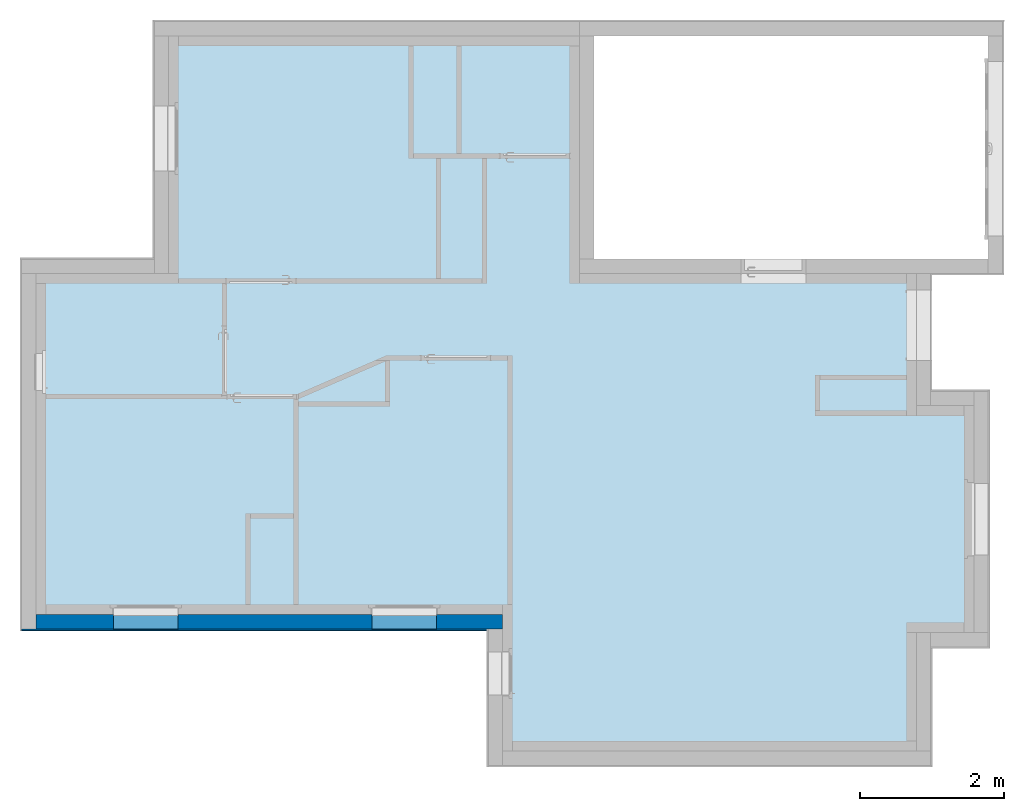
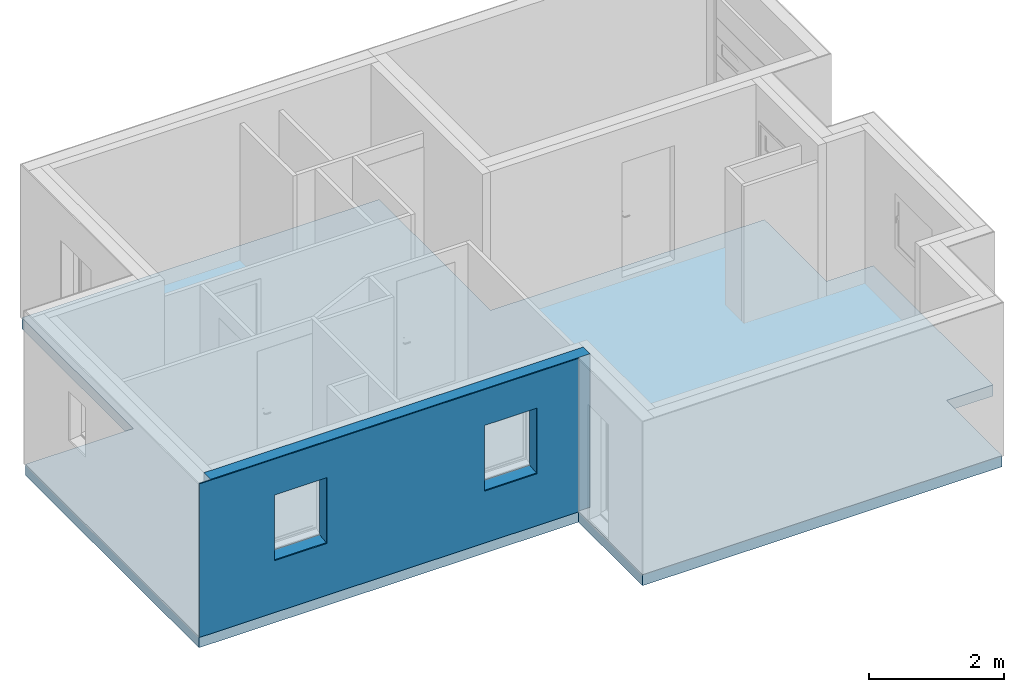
# One storey, part 1 of 11: 2 walls, 1 slab, 4 openings.
"""IFC2X3 building model written with IfcOpenShell, lengths in centimetres."""

from ifc_helpers import new_model, entity, si_unit, converted_unit, derived_unit, direction, frame, frame_2d, origin, place, context, subcontext, project, spatial, polyline, rectangle, outline, extrude, faceted_brep, material, layer, layer_set, layer_usage, type_object, element, save


model = new_model("IFC2X3")

# Units and contexts
model_context = context("Model", 3, precision=0.001, world=origin(), true_north=direction((6.123031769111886e-17, 1.0)))
body_context = subcontext(model_context, "Body", "Model", "MODEL_VIEW")
ifc_project = project(units=[si_unit("LENGTHUNIT", "METRE", prefix="CENTI"), si_unit("AREAUNIT", "SQUARE_METRE"), si_unit("VOLUMEUNIT", "CUBIC_METRE"), converted_unit("PLANEANGLEUNIT", "DEGREE", entity("IfcRatioMeasure", 0.017453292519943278), si_unit("PLANEANGLEUNIT", "RADIAN"), dimensions=[0, 0, 0, 0, 0, 0, 0]), si_unit("MASSUNIT", "GRAM", prefix="KILO"), derived_unit("MASSDENSITYUNIT", [(si_unit("MASSUNIT", "GRAM", prefix="KILO"), 1), (si_unit("LENGTHUNIT", "METRE"), -3)]), derived_unit("MOMENTOFINERTIAUNIT", [(si_unit("LENGTHUNIT", "METRE"), 4)]), si_unit("TIMEUNIT", "SECOND"), si_unit("FREQUENCYUNIT", "HERTZ"), si_unit("THERMODYNAMICTEMPERATUREUNIT", "DEGREE_CELSIUS"), derived_unit("THERMALTRANSMITTANCEUNIT", [(si_unit("MASSUNIT", "GRAM", prefix="KILO"), 1), (si_unit("THERMODYNAMICTEMPERATUREUNIT", "KELVIN"), -1), (si_unit("TIMEUNIT", "SECOND"), -3)]), derived_unit("VOLUMETRICFLOWRATEUNIT", [(si_unit("LENGTHUNIT", "METRE"), 3), (si_unit("TIMEUNIT", "SECOND"), -1)]), derived_unit("MASSFLOWRATEUNIT", [(si_unit("MASSUNIT", "GRAM", prefix="KILO"), 1), (si_unit("TIMEUNIT", "SECOND"), -1)]), derived_unit("ROTATIONALFREQUENCYUNIT", [(si_unit("TIMEUNIT", "SECOND"), -1)]), si_unit("ELECTRICCURRENTUNIT", "AMPERE"), si_unit("ELECTRICVOLTAGEUNIT", "VOLT"), si_unit("POWERUNIT", "WATT"), si_unit("FORCEUNIT", "NEWTON", prefix="KILO"), si_unit("ILLUMINANCEUNIT", "LUX"), si_unit("LUMINOUSFLUXUNIT", "LUMEN"), si_unit("LUMINOUSINTENSITYUNIT", "CANDELA"), derived_unit("USERDEFINED", [(si_unit("MASSUNIT", "GRAM", prefix="KILO"), -1), (si_unit("LENGTHUNIT", "METRE"), -2), (si_unit("TIMEUNIT", "SECOND"), 3), (si_unit("LUMINOUSFLUXUNIT", "LUMEN"), 1)]), derived_unit("SOUNDPOWERUNIT", [(si_unit("MASSUNIT", "GRAM", prefix="KILO"), 1), (si_unit("LENGTHUNIT", "METRE"), 2), (si_unit("TIMEUNIT", "SECOND"), -3)]), derived_unit("SOUNDPRESSUREUNIT", [(si_unit("MASSUNIT", "GRAM", prefix="KILO"), 1), (si_unit("LENGTHUNIT", "METRE"), -1), (si_unit("TIMEUNIT", "SECOND"), -2)]), derived_unit("LINEARVELOCITYUNIT", [(si_unit("LENGTHUNIT", "METRE"), 1), (si_unit("TIMEUNIT", "SECOND"), -1)]), si_unit("PRESSUREUNIT", "PASCAL"), derived_unit("USERDEFINED", [(si_unit("LENGTHUNIT", "METRE"), -2), (si_unit("MASSUNIT", "GRAM", prefix="KILO"), 1), (si_unit("TIMEUNIT", "SECOND"), -2)]), derived_unit("LINEARFORCEUNIT", [(si_unit("MASSUNIT", "GRAM", prefix="KILO"), 1), (si_unit("LENGTHUNIT", "METRE"), 1), (si_unit("TIMEUNIT", "SECOND"), -2), (si_unit("LENGTHUNIT", "METRE"), -1)]), derived_unit("PLANARFORCEUNIT", [(si_unit("MASSUNIT", "GRAM", prefix="KILO"), 1), (si_unit("LENGTHUNIT", "METRE"), 1), (si_unit("TIMEUNIT", "SECOND"), -2), (si_unit("LENGTHUNIT", "METRE"), -2)])], contexts=[model_context])

# Site, building, storey
site_placement = place(None, origin())
site = spatial("IfcSite", under=ifc_project, at=site_placement, Name="Default", CompositionType="ELEMENT")
building_placement = place(site_placement, origin())
building = spatial("IfcBuilding", under=site, at=building_placement, CompositionType="ELEMENT")
storey_placement = place(building_placement, frame((0.0, 0.0, -8.0)))
storey = spatial("IfcBuildingStorey", under=building, at=storey_placement, Name="-0.08_Dessus plancher", CompositionType="ELEMENT", Elevation=-8.000000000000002)

# Slab
ifc_material_1 = material(Name="Maçonnerie - Béton")
ifc_layer_1 = layer(ifc_material_1, 20.0)
ifc_layer_set_1 = layer_set([ifc_layer_1], Name="Sol:Dalle en béton - 200 mm")
ifc_layer_usage_1 = layer_usage(ifc_layer_set_1, "AXIS3", "POSITIVE", 0.0)
slab_type = type_object("IfcSlabType", Name="Sol:Dalle en béton - 200 mm", PredefinedType="FLOOR", material=ifc_layer_set_1)
slab_placement = place(storey_placement, origin())
element("IfcSlab", 1, at=slab_placement, inside=storey, type_object=slab_type, material=ifc_layer_usage_1, Name="Sol:Dalle en béton - 200 mm", ObjectType="Sol:Dalle en béton - 200 mm", PredefinedType="FLOOR", context=body_context, shape_type="SweptSolid", body=[
    extrude(outline(polyline([(-284.5714285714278, -787.1428571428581), (230.42857142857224, -787.1428571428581), (230.4285714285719, -602.1428571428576), (561.4285714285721, -602.1428571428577), (561.4285714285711, 9.857142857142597), (230.42857142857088, 9.85714285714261), (230.42857142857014, 478.85714285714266), (46.42857142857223, 478.8571428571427), (46.428571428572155, 558.8571428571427), (-309.57142857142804, 558.8571428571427), (-309.57142857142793, 478.8571428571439), (-474.5714285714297, 478.8571428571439), (-474.5714285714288, -137.14285714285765), (-284.5714285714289, -137.14285714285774), (-284.5714285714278, -787.1428571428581)])), frame((-844.6825059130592, 370.17572465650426, 0.0), z_axis=(0.0, 0.0, -1.0), x_axis=(0.0, 1.0, 0.0)), (0.0, 0.0, 1.0), 20.0),
])

# Wall, openings
ifc_layer_2 = layer(ifc_material_1, 20.0)
ifc_layer_set_2 = layer_set([ifc_layer_2], Name="Mur de base:Mur 20")
ifc_layer_usage_2 = layer_usage(ifc_layer_set_2, "AXIS2", "POSITIVE", -10.0)
wall_type_1 = type_object("IfcWallType", Name="Mur de base:Mur 20", PredefinedType="STANDARD", material=ifc_layer_set_2)
wall_1_placement = place(storey_placement, frame((-1611.825363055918, 95.60429608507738, 0.0)))
wall_1 = element("IfcWallStandardCase", 2, at=wall_1_placement, inside=storey, type_object=wall_type_1, material=ifc_layer_usage_2, Name="Mur de base:Mur 20", ObjectType="Mur de base:Mur 20", context=body_context, shape_type="SweptSolid", body=[
    extrude(rectangle(XDim=650.0, YDim=19.999999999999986, at=frame_2d((325.0, 5.329070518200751e-15), x_axis=(-1.0, 0.0))), origin(), (0.0, 0.0, 1.0), 278.00000000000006),
])
opening_1_placement = place(wall_1_placement, frame((103.0, -33.0, 91.77030941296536)))
element("IfcOpeningElement", 3, at=opening_1_placement, cuts=wall_1, Name="Mur de base:Mur 20", ObjectType="Opening", context=body_context, shape_type="Brep", body=[
    faceted_brep([(95.0, 45.0, 6.229690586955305), (95.0, 43.0, 6.229690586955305), (95.0, 43.0, 121.22969058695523), (95.0, 0.0, 121.22969058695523), (95.0, 0.0, 0.0), (95.0, 45.0, 4.729690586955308), (5.0, 100.0, 6.229690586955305), (5.0, 57.0, 6.229690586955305), (5.0, 57.0, 121.22969058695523), (5.0, 100.0, 121.22969058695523), (95.0, 100.0, 6.229690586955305), (95.0, 57.0, 6.229690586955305), (100.0, 57.0, 6.229690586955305), (100.0, 52.0, 6.229690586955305), (96.0, 52.0, 6.229690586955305), (96.0, 43.0, 6.229690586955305), (5.0, 45.0, 6.229690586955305), (5.0, 43.0, 6.229690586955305), (4.0, 43.0, 6.229690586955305), (4.0, 52.0, 6.229690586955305), (0.0, 52.0, 6.229690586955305), (0.0, 57.0, 6.229690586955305), (95.0, 100.0, 121.22969058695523), (5.0, 43.0, 121.22969058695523), (5.0, 0.0, 121.22969058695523), (5.0, 0.0, 0.0), (5.0, 45.0, 4.729690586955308), (100.0, 57.0, 126.2296905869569), (100.0, 52.0, 126.2296905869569), (0.0, 52.0, 126.2296905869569), (4.0, 52.0, 122.22969058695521), (96.0, 52.0, 122.22969058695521), (96.0, 43.0, 122.22969058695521), (4.0, 43.0, 122.22969058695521), (95.0, 57.0, 121.22969058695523), (0.0, 57.0, 126.2296905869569)], [[[0, 1, 2, 3, 4, 5]], [[6, 7, 8, 9]], [[10, 11, 12, 13, 14, 15, 1, 0, 16, 17, 18, 19, 20, 21, 7, 6]], [[10, 6, 9, 22]], [[3, 2, 23, 24]], [[3, 24, 25, 4]], [[4, 25, 26, 5]], [[5, 26, 16, 0]], [[12, 27, 28, 13]], [[13, 28, 29, 20, 19, 30, 31, 14]], [[14, 31, 32, 15]], [[15, 32, 33, 18, 17, 23, 2, 1]], [[11, 34, 8, 7, 21, 35, 27, 12]], [[27, 35, 29, 28]], [[30, 33, 32, 31]], [[29, 35, 21, 20]], [[19, 18, 33, 30]], [[9, 8, 34, 22]], [[24, 23, 17, 16, 26, 25]], [[22, 34, 11, 10]]]),
])
opening_2_placement = place(wall_1_placement, frame((463.0, -33.0, 91.77030941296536)))
element("IfcOpeningElement", 4, at=opening_2_placement, cuts=wall_1, Name="Mur de base:Mur 20", ObjectType="Opening", context=body_context, shape_type="Brep", body=[
    faceted_brep([(95.0, 45.0, 6.229690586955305), (95.0, 43.0, 6.229690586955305), (95.0, 43.0, 121.22969058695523), (95.0, 0.0, 121.22969058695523), (95.0, 0.0, 0.0), (95.0, 45.0, 4.729690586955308), (5.0, 100.0, 6.229690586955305), (5.0, 57.0, 6.229690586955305), (5.0, 57.0, 121.22969058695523), (5.0, 100.0, 121.22969058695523), (95.0, 100.0, 6.229690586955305), (95.0, 57.0, 6.229690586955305), (100.0, 57.0, 6.229690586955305), (100.0, 52.0, 6.229690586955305), (96.0, 52.0, 6.229690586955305), (96.0, 43.0, 6.229690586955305), (5.0, 45.0, 6.229690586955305), (5.0, 43.0, 6.229690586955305), (4.0, 43.0, 6.229690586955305), (4.0, 52.0, 6.229690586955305), (0.0, 52.0, 6.229690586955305), (0.0, 57.0, 6.229690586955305), (95.0, 100.0, 121.22969058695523), (5.0, 43.0, 121.22969058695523), (5.0, 0.0, 121.22969058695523), (5.0, 0.0, 0.0), (5.0, 45.0, 4.729690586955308), (100.0, 57.0, 126.2296905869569), (100.0, 52.0, 126.2296905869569), (0.0, 52.0, 126.2296905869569), (4.0, 52.0, 122.22969058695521), (96.0, 52.0, 122.22969058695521), (96.0, 43.0, 122.22969058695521), (4.0, 43.0, 122.22969058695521), (95.0, 57.0, 121.22969058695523), (0.0, 57.0, 126.2296905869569)], [[[0, 1, 2, 3, 4, 5]], [[6, 7, 8, 9]], [[10, 11, 12, 13, 14, 15, 1, 0, 16, 17, 18, 19, 20, 21, 7, 6]], [[10, 6, 9, 22]], [[3, 2, 23, 24]], [[3, 24, 25, 4]], [[4, 25, 26, 5]], [[5, 26, 16, 0]], [[12, 27, 28, 13]], [[13, 28, 29, 20, 19, 30, 31, 14]], [[14, 31, 32, 15]], [[15, 32, 33, 18, 17, 23, 2, 1]], [[11, 34, 8, 7, 21, 35, 27, 12]], [[27, 35, 29, 28]], [[30, 33, 32, 31]], [[29, 35, 21, 20]], [[19, 18, 33, 30]], [[9, 8, 34, 22]], [[24, 23, 17, 16, 26, 25]], [[22, 34, 11, 10]]]),
])

ifc_material_2 = material(Name="Maçonnerie - Enduit")
ifc_layer_3 = layer(ifc_material_2, 2.0)
ifc_layer_set_3 = layer_set([ifc_layer_3], Name="Mur de base:Enduit 2")
ifc_layer_usage_3 = layer_usage(ifc_layer_set_3, "AXIS2", "POSITIVE", -1.0)
wall_type_2 = type_object("IfcWallType", Name="Mur de base:Enduit 2", PredefinedType="STANDARD", material=ifc_layer_set_3)
wall_2_placement = place(storey_placement, frame((-1631.825363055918, 84.6042960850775, 0.0)))
wall_2 = element("IfcWallStandardCase", 5, at=wall_2_placement, inside=storey, type_object=wall_type_2, material=ifc_layer_usage_3, Name="Mur de base:Enduit 2", ObjectType="Mur de base:Enduit 2", context=body_context, shape_type="SweptSolid", body=[
    extrude(rectangle(XDim=650.0000000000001, YDim=2.0000000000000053, at=frame_2d((325.00000000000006, 0.0), x_axis=(-1.0, 0.0))), origin(), (0.0, 0.0, 1.0), 278.00000000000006),
])
opening_3_placement = place(wall_2_placement, frame((123.0, -22.0, 91.77030941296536)))
element("IfcOpeningElement", 6, at=opening_3_placement, cuts=wall_2, Name="Mur de base:Enduit 2", ObjectType="Opening", context=body_context, shape_type="Brep", body=[
    faceted_brep([(95.0, 45.0, 6.229690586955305), (95.0, 43.0, 6.229690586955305), (95.0, 43.0, 121.22969058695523), (95.0, 0.0, 121.22969058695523), (95.0, 0.0, 0.0), (95.0, 45.0, 4.729690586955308), (5.0, 100.0, 6.229690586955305), (5.0, 57.0, 6.229690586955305), (5.0, 57.0, 121.22969058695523), (5.0, 100.0, 121.22969058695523), (95.0, 100.0, 6.229690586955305), (95.0, 57.0, 6.229690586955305), (100.0, 57.0, 6.229690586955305), (100.0, 52.0, 6.229690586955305), (96.0, 52.0, 6.229690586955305), (96.0, 43.0, 6.229690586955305), (5.0, 45.0, 6.229690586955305), (5.0, 43.0, 6.229690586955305), (4.0, 43.0, 6.229690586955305), (4.0, 52.0, 6.229690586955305), (0.0, 52.0, 6.229690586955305), (0.0, 57.0, 6.229690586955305), (95.0, 100.0, 121.22969058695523), (5.0, 43.0, 121.22969058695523), (5.0, 0.0, 121.22969058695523), (5.0, 0.0, 0.0), (5.0, 45.0, 4.729690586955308), (100.0, 57.0, 126.2296905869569), (100.0, 52.0, 126.2296905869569), (0.0, 52.0, 126.2296905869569), (4.0, 52.0, 122.22969058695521), (96.0, 52.0, 122.22969058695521), (96.0, 43.0, 122.22969058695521), (4.0, 43.0, 122.22969058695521), (95.0, 57.0, 121.22969058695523), (0.0, 57.0, 126.2296905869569)], [[[0, 1, 2, 3, 4, 5]], [[6, 7, 8, 9]], [[10, 11, 12, 13, 14, 15, 1, 0, 16, 17, 18, 19, 20, 21, 7, 6]], [[10, 6, 9, 22]], [[3, 2, 23, 24]], [[3, 24, 25, 4]], [[4, 25, 26, 5]], [[5, 26, 16, 0]], [[12, 27, 28, 13]], [[13, 28, 29, 20, 19, 30, 31, 14]], [[14, 31, 32, 15]], [[15, 32, 33, 18, 17, 23, 2, 1]], [[11, 34, 8, 7, 21, 35, 27, 12]], [[27, 35, 29, 28]], [[30, 33, 32, 31]], [[29, 35, 21, 20]], [[19, 18, 33, 30]], [[9, 8, 34, 22]], [[24, 23, 17, 16, 26, 25]], [[22, 34, 11, 10]]]),
])
opening_4_placement = place(wall_2_placement, frame((483.0, -22.0, 91.77030941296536)))
element("IfcOpeningElement", 7, at=opening_4_placement, cuts=wall_2, Name="Mur de base:Enduit 2", ObjectType="Opening", context=body_context, shape_type="Brep", body=[
    faceted_brep([(95.0, 45.0, 6.229690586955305), (95.0, 43.0, 6.229690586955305), (95.0, 43.0, 121.22969058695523), (95.0, 0.0, 121.22969058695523), (95.0, 0.0, 0.0), (95.0, 45.0, 4.729690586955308), (5.0, 100.0, 6.229690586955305), (5.0, 57.0, 6.229690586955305), (5.0, 57.0, 121.22969058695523), (5.0, 100.0, 121.22969058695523), (95.0, 100.0, 6.229690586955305), (95.0, 57.0, 6.229690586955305), (100.0, 57.0, 6.229690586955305), (100.0, 52.0, 6.229690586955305), (96.0, 52.0, 6.229690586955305), (96.0, 43.0, 6.229690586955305), (5.0, 45.0, 6.229690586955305), (5.0, 43.0, 6.229690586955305), (4.0, 43.0, 6.229690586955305), (4.0, 52.0, 6.229690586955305), (0.0, 52.0, 6.229690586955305), (0.0, 57.0, 6.229690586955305), (95.0, 100.0, 121.22969058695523), (5.0, 43.0, 121.22969058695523), (5.0, 0.0, 121.22969058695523), (5.0, 0.0, 0.0), (5.0, 45.0, 4.729690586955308), (100.0, 57.0, 126.2296905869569), (100.0, 52.0, 126.2296905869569), (0.0, 52.0, 126.2296905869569), (4.0, 52.0, 122.22969058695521), (96.0, 52.0, 122.22969058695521), (96.0, 43.0, 122.22969058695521), (4.0, 43.0, 122.22969058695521), (95.0, 57.0, 121.22969058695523), (0.0, 57.0, 126.2296905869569)], [[[0, 1, 2, 3, 4, 5]], [[6, 7, 8, 9]], [[10, 11, 12, 13, 14, 15, 1, 0, 16, 17, 18, 19, 20, 21, 7, 6]], [[10, 6, 9, 22]], [[3, 2, 23, 24]], [[3, 24, 25, 4]], [[4, 25, 26, 5]], [[5, 26, 16, 0]], [[12, 27, 28, 13]], [[13, 28, 29, 20, 19, 30, 31, 14]], [[14, 31, 32, 15]], [[15, 32, 33, 18, 17, 23, 2, 1]], [[11, 34, 8, 7, 21, 35, 27, 12]], [[27, 35, 29, 28]], [[30, 33, 32, 31]], [[29, 35, 21, 20]], [[19, 18, 33, 30]], [[9, 8, 34, 22]], [[24, 23, 17, 16, 26, 25]], [[22, 34, 11, 10]]]),
])

save(model, "model.ifc")
